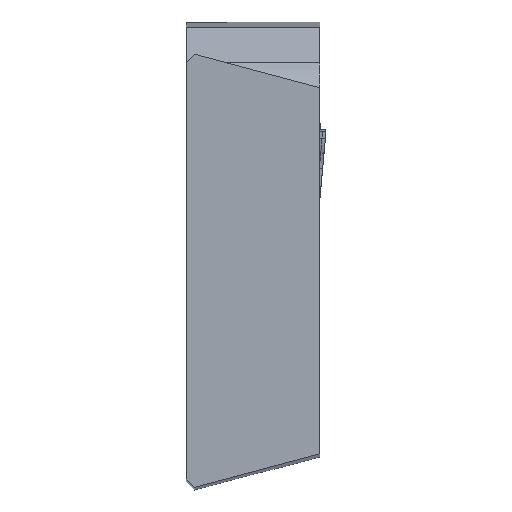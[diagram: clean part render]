
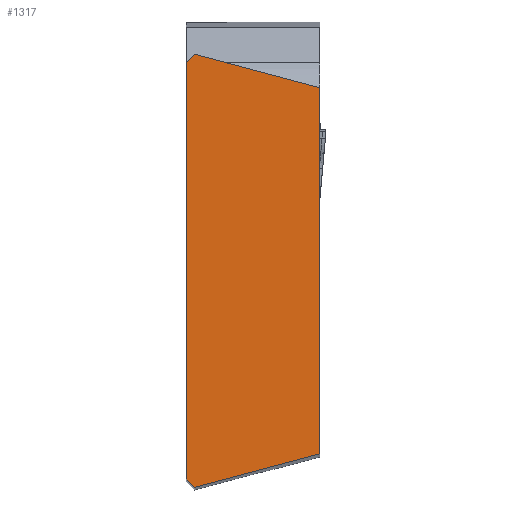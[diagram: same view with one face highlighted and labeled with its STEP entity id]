
A CAD part, top view. The second image highlights one B-rep face of the part: STEP entity #1317.
In plain terms, the highlighted planar face has unit normal (0, 0, 1).
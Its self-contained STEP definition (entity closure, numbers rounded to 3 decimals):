
#1302=AXIS2_PLACEMENT_3D('Plane Axis2P3D',#1299,#1300,#1301) ;
#533=CARTESIAN_POINT('Vertex',(0.,0.634,0.)) ;
#536=CARTESIAN_POINT('Line Origine',(0.,13.,0.)) ;
#540=CARTESIAN_POINT('Vertex',(0.,25.366,0.)) ;
#751=CARTESIAN_POINT('Vertex',(7.94,23.872,0.)) ;
#754=CARTESIAN_POINT('Line Origine',(7.94,13.,0.)) ;
#758=CARTESIAN_POINT('Vertex',(7.94,2.128,0.)) ;
#920=CARTESIAN_POINT('Line Origine',(4.22,24.869,0.)) ;
#924=CARTESIAN_POINT('Vertex',(0.5,25.866,0.)) ;
#957=CARTESIAN_POINT('Line Origine',(0.25,25.616,0.)) ;
#1284=CARTESIAN_POINT('Vertex',(0.5,0.134,0.)) ;
#1287=CARTESIAN_POINT('Line Origine',(0.25,0.384,0.)) ;
#1299=CARTESIAN_POINT('Axis2P3D Location',(6.74,21.42,0.)) ;
#1304=CARTESIAN_POINT('Line Origine',(4.22,1.131,0.)) ;
#537=DIRECTION('Vector Direction',(0.,-1.,0.)) ;
#755=DIRECTION('Vector Direction',(0.,1.,0.)) ;
#921=DIRECTION('Vector Direction',(-0.966,0.259,0.)) ;
#958=DIRECTION('Vector Direction',(0.707,0.707,0.)) ;
#1288=DIRECTION('Vector Direction',(-0.707,0.707,0.)) ;
#1300=DIRECTION('Axis2P3D Direction',(0.,0.,-1.)) ;
#1301=DIRECTION('Axis2P3D XDirection',(-1.,0.,0.)) ;
#1305=DIRECTION('Vector Direction',(-0.966,-0.259,0.)) ;
#538=VECTOR('Line Direction',#537,1.) ;
#756=VECTOR('Line Direction',#755,1.) ;
#922=VECTOR('Line Direction',#921,1.) ;
#959=VECTOR('Line Direction',#958,1.) ;
#1289=VECTOR('Line Direction',#1288,1.) ;
#1306=VECTOR('Line Direction',#1305,1.) ;
#1310=ORIENTED_EDGE('',*,*,#926,.T.) ;
#1311=ORIENTED_EDGE('',*,*,#961,.F.) ;
#1312=ORIENTED_EDGE('',*,*,#542,.F.) ;
#1313=ORIENTED_EDGE('',*,*,#1291,.F.) ;
#1314=ORIENTED_EDGE('',*,*,#1308,.F.) ;
#1315=ORIENTED_EDGE('',*,*,#760,.F.) ;
#1317=ADVANCED_FACE('NO_CUT',(#1316),#1303,.F.) ;
#542=EDGE_CURVE('',#534,#541,#539,.F.) ;
#760=EDGE_CURVE('',#752,#759,#757,.F.) ;
#926=EDGE_CURVE('',#752,#925,#923,.T.) ;
#961=EDGE_CURVE('',#541,#925,#960,.T.) ;
#1291=EDGE_CURVE('',#1285,#534,#1290,.T.) ;
#1308=EDGE_CURVE('',#759,#1285,#1307,.T.) ;
#1309=EDGE_LOOP('',(#1310,#1311,#1312,#1313,#1314,#1315)) ;
#1316=FACE_OUTER_BOUND('',#1309,.T.) ;
#539=LINE('Line',#536,#538) ;
#757=LINE('Line',#754,#756) ;
#923=LINE('Line',#920,#922) ;
#960=LINE('Line',#957,#959) ;
#1290=LINE('Line',#1287,#1289) ;
#1307=LINE('Line',#1304,#1306) ;
#1303=PLANE('',#1302) ;
#534=VERTEX_POINT('',#533) ;
#541=VERTEX_POINT('',#540) ;
#752=VERTEX_POINT('',#751) ;
#759=VERTEX_POINT('',#758) ;
#925=VERTEX_POINT('',#924) ;
#1285=VERTEX_POINT('',#1284) ;
